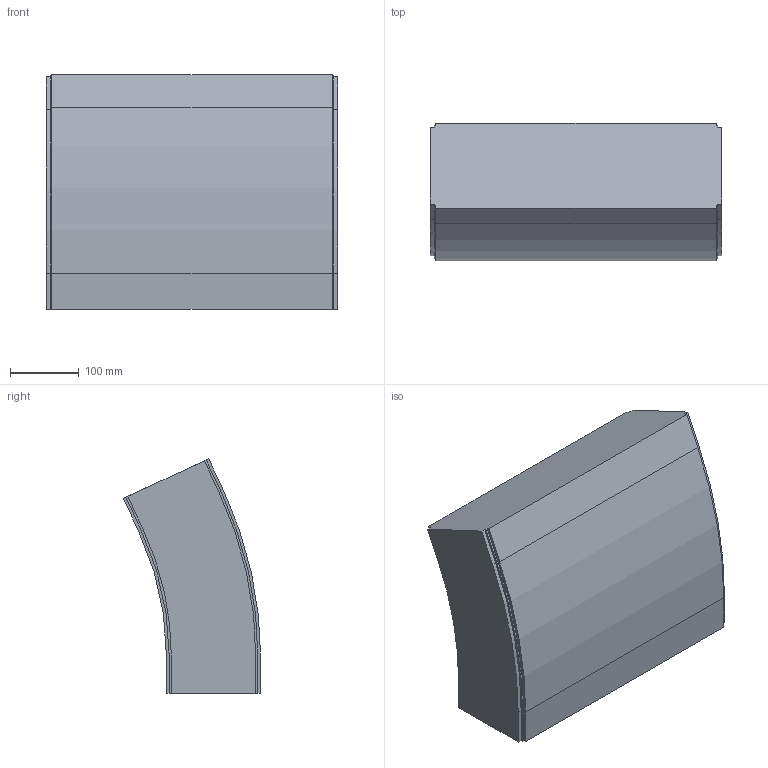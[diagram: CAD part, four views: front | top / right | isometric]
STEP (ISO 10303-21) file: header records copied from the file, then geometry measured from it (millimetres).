
FILE_DESCRIPTION (( 'STEP AP214' ), '1' );
FILE_NAME ('FS-MTC2-150-INOX verticaalbocht.420 25°.STEP', '2017-02-08T12:42:25', ( '' ), ( '' ), 'SwSTEP 2.0', 'SolidWorks 2016', '' );
FILE_SCHEMA (( 'AUTOMOTIVE_DESIGN' ));
Length unit declared in the file: millimetre
Products named in the file (1): FS-MTC2-150-INOX verticaalbocht.420 25°
Bounding box: 423 x 199.14 x 340.23 mm (x, y, z)
Volume: 18593267.9 mm3; surface area: 476692.3 mm2
Topology: 1 solids, 1 shells, 42 faces, 120 edges, 80 vertices
Faces by surface type: plane 32, cylinder 10
Entity records: 1398 total; most frequent: CARTESIAN_POINT 243, ORIENTED_EDGE 240, DIRECTION 226, EDGE_CURVE 120, LINE 100, VECTOR 100, VERTEX_POINT 80, AXIS2_PLACEMENT_3D 63
